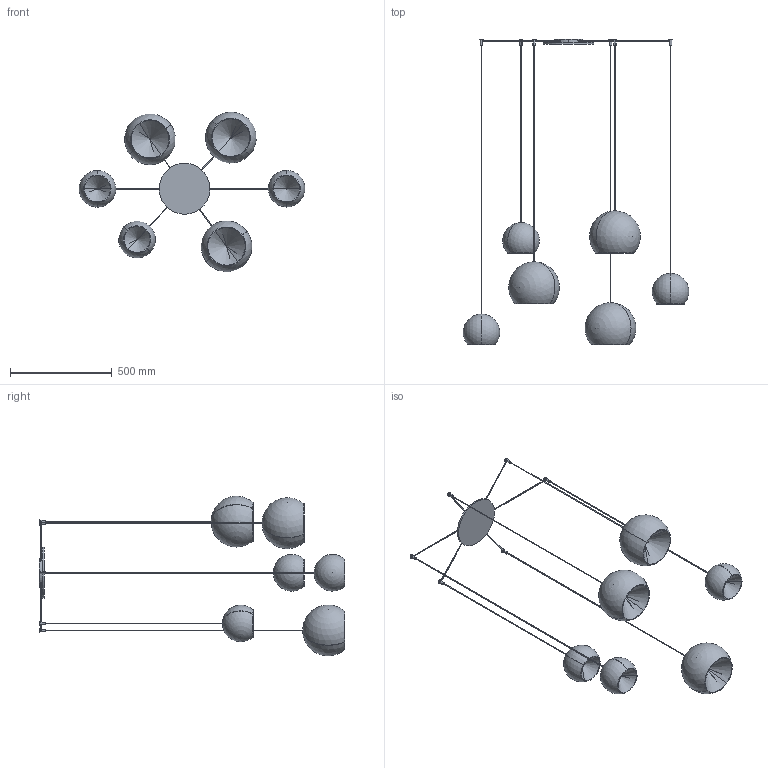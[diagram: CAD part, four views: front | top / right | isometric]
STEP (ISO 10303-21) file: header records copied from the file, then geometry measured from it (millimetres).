
FILE_DESCRIPTION (( 'STEP AP203' ), '1' );
FILE_NAME ('CRMA4-00-CHERRY MIX_6 sospensione.STEP', '2025-05-06T07:40:09', ( '' ), ( '' ), 'SwSTEP 2.0', 'SolidWorks 2022', '' );
FILE_SCHEMA (( 'CONFIG_CONTROL_DESIGN' ));
Length unit declared in the file: millimetre
Products named in the file (8): CRMA4-00-CHERRY MIX_6 sospensione; CHERRY_Lampada singola_Cherry 250 | H=1700; CHERRY_Rosone_Cherry 6 (x 2000)<A macchina>; CHERRY_Lampada singola_Cherry 180 | H=1500; CHERRY_Lampada singola_Cherry 180 | H=1700; CHERRY_Lampada singola_Cherry 250 | H=1500; CHERRY_Lampada singola_Cherry 180 | H=1950; CHERRY_Lampada singola_Cherry 250 | H=1950
Assembly tree (7 placements, depth 2):
  CRMA4-00-CHERRY MIX_6 sospensione
    CHERRY_Rosone_Cherry 6 (x 2000)<A macchina>
    CHERRY_Lampada singola_Cherry 180 | H=1500
    CHERRY_Lampada singola_Cherry 180 | H=1950
    CHERRY_Lampada singola_Cherry 250 | H=1500
    CHERRY_Lampada singola_Cherry 180 | H=1700
    CHERRY_Lampada singola_Cherry 250 | H=1950
    CHERRY_Lampada singola_Cherry 250 | H=1700
Bounding box: 1108.5 x 1500 x 783.29 mm (x, y, z)
Volume: 2466490.3 mm3; surface area: 2067807.3 mm2
Topology: 31 solids, 31 shells, 229 faces, 544 edges, 342 vertices
Faces by surface type: cylinder 106, plane 75, sphere 24, cone 24
Entity records: 7216 total; most frequent: CARTESIAN_POINT 1515, DIRECTION 1124, ORIENTED_EDGE 920, AXIS2_PLACEMENT_3D 499, EDGE_CURVE 460, VERTEX_POINT 306, CIRCLE 260, EDGE_LOOP 254
